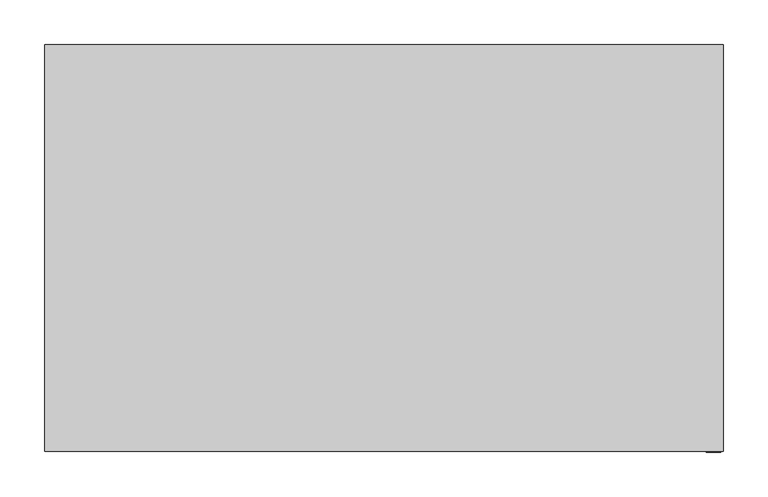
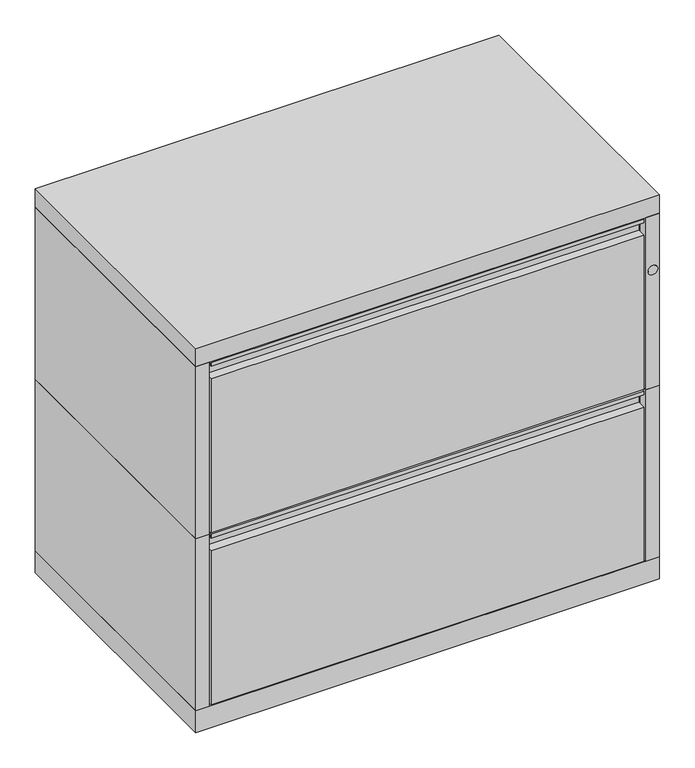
"""IFC4 building model written with IfcOpenShell, lengths in millimetres: furniture geometry, HermanMiller_MeridianFiling_26_Standard-PullFreeStandingLateralFile : 2 11 3/4H x 18D x 30W."""

import ifcopenshell
import ifcopenshell.guid

model = None  # the IFC model being written
_history = None  # IfcOwnerHistory: only IFC2X3 demands one
_inside = {}  # id of a spatial element -> (the spatial element, [elements in it])
_under = {}  # id of a project, library or spatial element -> (it, [spatial elements below it])
_declared = {}  # id of a project -> (the project, [libraries it declares])
_typed = {}  # id of a type object -> (the type object, [elements of that type])
_made_of = {}  # id of a material, layer set ... -> (it, [elements and type objects made of it])


def new_model(schema):
    """Start an empty IFC model of exactly this schema.

    Asked for "IFC4X3", IfcOpenShell would pick the latest addendum, in which some entities
    have other attributes; the version numbers below select the first issue.
    IFC2X3 requires an IfcOwnerHistory on every rooted entity: one is made here for all.
    """
    global model, _history
    if schema == "IFC4X3":
        model = ifcopenshell.file(schema_version=(4, 3, 0, 0))
    else:
        model = ifcopenshell.file(schema=schema)
    _inside.clear()
    _under.clear()
    _declared.clear()
    _typed.clear()
    _made_of.clear()
    _history = None
    if model.schema == "IFC2X3":
        org = make("IfcOrganization", Name="unknown")
        user = make(
            "IfcPersonAndOrganization",
            ThePerson=make("IfcPerson", FamilyName="unknown"),
            TheOrganization=org,
        )
        app = make(
            "IfcApplication",
            ApplicationDeveloper=org,
            Version="unknown",
            ApplicationFullName="unknown",
            ApplicationIdentifier="unknown",
        )
        _history = make(
            "IfcOwnerHistory",
            OwningUser=user,
            OwningApplication=app,
            ChangeAction="ADDED",
            CreationDate=0,
        )
    return model


def make(cls, **values):
    """One entity of the class cls with the attributes given. An attribute that is None is left unset."""
    return model.create_entity(
        cls, **{name: value for name, value in values.items() if value is not None}
    )


def rooted(cls, **values):
    """An entity with a GlobalId (a new one), such as an element, a storey or a relation."""
    return make(cls, GlobalId=ifcopenshell.guid.new(), OwnerHistory=_history, **values)


def si_unit(unit_type, name, prefix=None):
    """IfcSIUnit, for example si_unit("LENGTHUNIT", "METRE", prefix="MILLI")."""
    return make("IfcSIUnit", UnitType=unit_type, Prefix=prefix, Name=name)


def assignment(units):
    """IfcUnitAssignment: the units of a project."""
    return None if units is None else make("IfcUnitAssignment", Units=units)


def point(xyz):
    """IfcCartesianPoint."""
    return None if xyz is None else make("IfcCartesianPoint", Coordinates=xyz)


def direction(xyz):
    """IfcDirection."""
    return None if xyz is None else make("IfcDirection", DirectionRatios=xyz)


def frame(location, z_axis=None, x_axis=None):
    """IfcAxis2Placement3D, a coordinate frame: its origin and axes. An axis left out is left unset."""
    return make(
        "IfcAxis2Placement3D",
        Location=point(location),
        Axis=direction(z_axis),
        RefDirection=direction(x_axis),
    )


def frame_2d(location, x_axis=None):
    """IfcAxis2Placement2D, a coordinate frame in the plane: its origin and x axis."""
    return make(
        "IfcAxis2Placement2D", Location=point(location), RefDirection=direction(x_axis)
    )


def origin():
    """The frame at (0, 0, 0) with its axes left unset."""
    return frame((0.0, 0.0, 0.0))


def origin_with_axes():
    """The frame at (0, 0, 0) with the z axis (0, 0, 1) and the x axis (1, 0, 0) written out."""
    return frame((0.0, 0.0, 0.0), z_axis=(0.0, 0.0, 1.0), x_axis=(1.0, 0.0, 0.0))


def place(relative_to, where):
    """IfcLocalPlacement: puts the frame where relative to a parent placement (None: the world)."""
    return make(
        "IfcLocalPlacement", PlacementRelTo=relative_to, RelativePlacement=where
    )


def context(
    kind, dimensions, precision=None, world=None, true_north=None, identifier=None
):
    """IfcGeometricRepresentationContext, for example the 3D "Model" context."""
    return make(
        "IfcGeometricRepresentationContext",
        ContextIdentifier=identifier,
        ContextType=kind,
        CoordinateSpaceDimension=dimensions,
        Precision=precision,
        WorldCoordinateSystem=world,
        TrueNorth=true_north,
    )


def project(units=None, contexts=None):
    """IfcProject with its units and contexts."""
    return rooted(
        "IfcProject",
        Name="project",
        RepresentationContexts=contexts,
        UnitsInContext=assignment(units),
    )


def spatial(cls, under=None, at=None, **own):
    """A site, building, storey or space (cls), placed at a placement, below another one or the project."""
    s = rooted(cls, ObjectPlacement=at, **own)
    if under is not None:
        _under.setdefault(under.id(), (under, []))[1].append(s)
    return s


def polyline(points):
    """IfcPolyline through the points."""
    return make("IfcPolyline", Points=[point(p) for p in points])


def circle_curve(where, radius):
    """IfcCircle in the frame where."""
    return make("IfcCircle", Position=where, Radius=radius)


def trimmed(basis, trim1, trim2, sense, master):
    """IfcTrimmedCurve: the piece of a basis curve between two trims."""
    return make(
        "IfcTrimmedCurve",
        BasisCurve=basis,
        Trim1=trim1,
        Trim2=trim2,
        SenseAgreement=sense,
        MasterRepresentation=master,
    )


def segment(curve, same_sense, transition):
    """IfcCompositeCurveSegment."""
    return make(
        "IfcCompositeCurveSegment",
        Transition=transition,
        SameSense=same_sense,
        ParentCurve=curve,
    )


def composite_curve(segments, self_intersect=None):
    """IfcCompositeCurve: segments joined end to end."""
    return make("IfcCompositeCurve", Segments=segments, SelfIntersect=self_intersect)


def outline(outer, holes=None, kind="AREA"):
    """IfcArbitraryClosedProfileDef: a profile drawn as a closed curve; with holes, ...WithVoids."""
    if holes is None:
        return make("IfcArbitraryClosedProfileDef", ProfileType=kind, OuterCurve=outer)
    return make(
        "IfcArbitraryProfileDefWithVoids",
        ProfileType=kind,
        OuterCurve=outer,
        InnerCurves=holes,
    )


def extrude(swept, where, along, depth):
    """IfcExtrudedAreaSolid: the profile swept, set in the frame where, extruded along a direction by depth."""
    return make(
        "IfcExtrudedAreaSolid",
        SweptArea=swept,
        Position=where,
        ExtrudedDirection=direction(along),
        Depth=depth,
    )


def shape(context_of_items, identifier, shape_type, items):
    """IfcShapeRepresentation: the items that make up one representation, for example the "Body"."""
    return make(
        "IfcShapeRepresentation",
        ContextOfItems=context_of_items,
        RepresentationIdentifier=identifier,
        RepresentationType=shape_type,
        Items=items,
    )


def source(mapping_origin, context_of_items, identifier, shape_type, items):
    """IfcRepresentationMap: a shape defined once, which mapped items show again and again."""
    return make(
        "IfcRepresentationMap",
        MappingOrigin=mapping_origin,
        MappedRepresentation=shape(context_of_items, identifier, shape_type, items),
    )


def transform(
    local_origin,
    x_axis=None,
    y_axis=None,
    z_axis=None,
    scale=None,
    scale2=None,
    scale3=None,
    uniform=True,
):
    """IfcCartesianTransformationOperator3D, or its non-uniform kind. x_axis, y_axis, z_axis: its Axis1, 2, 3."""
    if uniform:
        return make(
            "IfcCartesianTransformationOperator3D",
            Axis1=direction(x_axis),
            Axis2=direction(y_axis),
            LocalOrigin=point(local_origin),
            Scale=scale,
            Axis3=direction(z_axis),
        )
    return make(
        "IfcCartesianTransformationOperator3DnonUniform",
        Axis1=direction(x_axis),
        Axis2=direction(y_axis),
        LocalOrigin=point(local_origin),
        Scale=scale,
        Axis3=direction(z_axis),
        Scale2=scale2,
        Scale3=scale3,
    )


def mapped(mapping_source, mapping_target):
    """IfcMappedItem: shows the shape of a source again, moved by a transform."""
    return make(
        "IfcMappedItem", MappingSource=mapping_source, MappingTarget=mapping_target
    )


def made_of(thing, what):
    """Note that an element or type object is made of a material, layer set ...; save() writes the relation."""
    if what is not None:
        _made_of.setdefault(what.id(), (what, []))[1].append(thing)
    return thing


def element(
    cls,
    number,
    at=None,
    inside=None,
    cuts=None,
    type_object=None,
    material=None,
    context=None,
    identifier="Body",
    shape_type=None,
    held_by="IfcProductDefinitionShape",
    body=None,
    shapes=None,
    **own,
):
    """One element of the class cls, such as IfcWall. Its Tag is "e" and its number.

    at: its placement. inside: the storey or other place that contains it. cuts: it is an
    opening in that element (IfcRelVoidsElement). A single representation is given by context,
    identifier, shape_type and body (its items); several are given by shapes. held_by: the class
    of the entity that holds the representations. save() writes the other relations.
    """
    e = rooted(cls, Tag="e%d" % number, ObjectPlacement=at, **own)
    if body is not None:
        shapes = [shape(context, identifier, shape_type, body)]
    if shapes is not None:
        e.Representation = make(held_by, Representations=shapes)
    if inside is not None:
        _inside.setdefault(inside.id(), (inside, []))[1].append(e)
    if cuts is not None:
        rooted(
            "IfcRelVoidsElement", RelatingBuildingElement=cuts, RelatedOpeningElement=e
        )
    if type_object is not None:
        _typed.setdefault(type_object.id(), (type_object, []))[1].append(e)
    return made_of(e, material)


def aggregate(whole, parts):
    """IfcRelAggregates: a whole, such as a stair, and the parts it consists of."""
    return rooted("IfcRelAggregates", RelatingObject=whole, RelatedObjects=parts)


def save(model, path):
    """Write the relations noted so far, then the file.

    IfcRelAggregates (storeys below a building ...), IfcRelContainedInSpatialStructure (elements
    in a storey), IfcRelDefinesByType, IfcRelAssociatesMaterial and IfcRelDeclares: one each for
    every whole, place, type object, material and project.
    """
    for whole, parts in _under.values():
        aggregate(whole, parts)
    for where, things in _inside.values():
        rooted(
            "IfcRelContainedInSpatialStructure",
            RelatedElements=things,
            RelatingStructure=where,
        )
    for kind, things in _typed.values():
        rooted("IfcRelDefinesByType", RelatedObjects=things, RelatingType=kind)
    for what, things in _made_of.values():
        rooted("IfcRelAssociatesMaterial", RelatedObjects=things, RelatingMaterial=what)
    for by, libraries in _declared.values():
        rooted("IfcRelDeclares", RelatingContext=by, RelatedDefinitions=libraries)
    model.write(path)


def furniture_de2a55ed(model_context):
    return source(origin(), model_context, "Body", "SweptSolid", [
        extrude(outline(polyline([(-228.6, 633.4252), (-211.9376, 633.4252), (-211.9376, 338.1375), (-228.6, 338.1375), (-228.6, 605.2439), (-213.4616, 605.2439), (-213.4616, 631.8885), (-227.076, 631.8885), (-227.076, 627.0625), (-228.6, 627.0625), (-228.6, 633.4252)])), frame((-355.6, 0.0, 0.0), z_axis=(1.0, 0.0, 0.0), x_axis=(0.0, 1.0, 0.0)), (0.0, 0.0, 1.0), 711.2),
        extrude(outline(polyline([(381.0, 228.6), (381.0, -228.6), (358.775, -228.6), (358.775, -211.9376), (-358.775, -211.9376), (-358.775, -228.6), (-381.0, -228.6), (-381.0, 228.6), (381.0, 228.6)])), frame((0.0, 0.0, 336.55), z_axis=(0.0, 0.0, 1.0), x_axis=(1.0, 0.0, 0.0)), (0.0, 0.0, 1.0), 298.45),
        extrude(outline(polyline([(-228.6, 334.9752), (-211.9376, 334.9752), (-211.9376, 39.6875), (-228.6, 39.6875), (-228.6, 306.7939), (-213.4616, 306.7939), (-213.4616, 333.4385), (-227.076, 333.4385), (-227.076, 328.6125), (-228.6, 328.6125), (-228.6, 334.9752)])), frame((-355.6, 0.0, 0.0), z_axis=(1.0, 0.0, 0.0), x_axis=(0.0, 1.0, 0.0)), (0.0, 0.0, 1.0), 711.2),
        extrude(outline(polyline([(381.0, 228.6), (381.0, -228.6), (358.775, -228.6), (358.775, -211.9376), (-358.775, -211.9376), (-358.775, -228.6), (-381.0, -228.6), (-381.0, 228.6), (381.0, 228.6)])), frame((0.0, 0.0, 38.1), z_axis=(0.0, 0.0, 1.0), x_axis=(1.0, 0.0, 0.0)), (0.0, 0.0, 1.0), 298.45),
        extrude(outline(polyline([(381.0, 228.6), (381.0, -228.6), (-381.0, -228.6), (-381.0, 228.6), (381.0, 228.6)])), frame((0.0, 0.0, 635.0), z_axis=(0.0, 0.0, 1.0), x_axis=(1.0, 0.0, 0.0)), (0.0, 0.0, 1.0), 31.75),
        extrude(outline(polyline([(381.0, 228.6), (381.0, -228.6), (-381.0, -228.6), (-381.0, 228.6), (381.0, 228.6)])), origin_with_axes(), (0.0, 0.0, 1.0), 38.1),
        extrude(outline(composite_curve([segment(trimmed(circle_curve(frame_2d((540.639, 369.8748)), 8.001), [point((540.639, 377.8758))], [point((540.639, 361.8738))], False, "CARTESIAN"), True, "CONTINUOUS"), segment(trimmed(circle_curve(frame_2d((540.639, 369.8748)), 8.001), [point((540.639, 361.8738))], [point((540.639, 377.8758))], False, "CARTESIAN"), True, "CONTINUOUS")], self_intersect=False)), frame((0.0, -229.39502, 0.0), z_axis=(0.0, 1.0, 0.0), x_axis=(0.0, 0.0, 1.0)), (0.0, 0.0, 1.0), 0.79502),
    ])


if __name__ == "__main__":
    model = new_model("IFC4")
    model_context = context("Model", 3, world=origin())
    ifc_project = project(units=[si_unit("LENGTHUNIT", "METRE", prefix="MILLI")], contexts=[model_context])
    site = spatial("IfcSite", under=ifc_project)
    building = spatial("IfcBuilding", under=site)
    placement = place(None, origin())
    furniture_shape = furniture_de2a55ed(model_context)
    element("IfcFurniture", 1, ObjectType="HermanMiller_MeridianFiling_26_Standard-PullFreeStandingLateralFile : 2 11 3/4H x 18D x 30W", at=placement, inside=building, context=model_context, shape_type="MappedRepresentation", body=[
        mapped(furniture_shape, transform((0.0, 0.0, 0.0), x_axis=(1.0, 0.0, 0.0), y_axis=(0.0, 1.0, 0.0), z_axis=(0.0, 0.0, 1.0))),
    ])
    save(model, "model.ifc")
